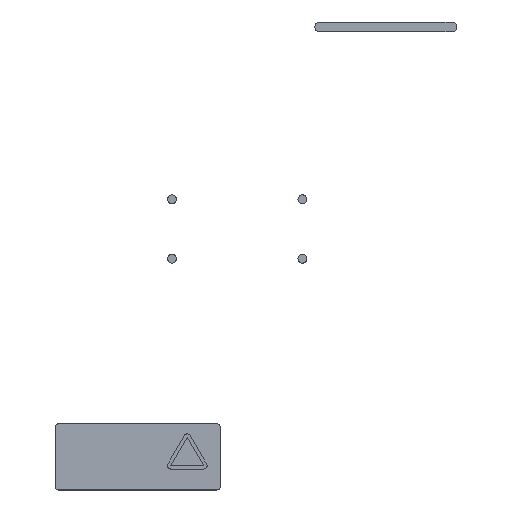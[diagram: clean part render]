
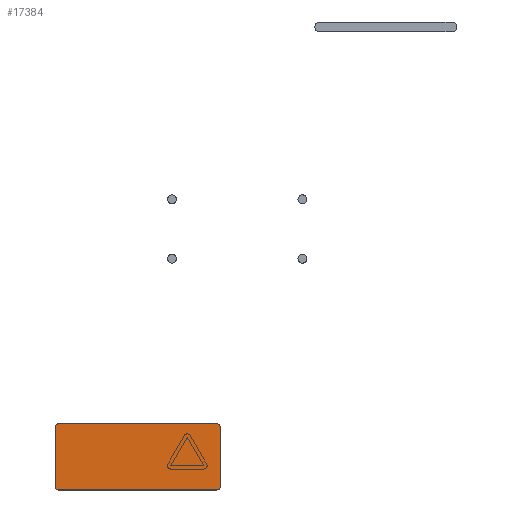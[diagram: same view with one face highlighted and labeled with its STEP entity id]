
A CAD part, top view. The second image highlights one B-rep face of the part: STEP entity #17384.
In plain terms, the highlighted planar face has unit normal (0, 0, 1).
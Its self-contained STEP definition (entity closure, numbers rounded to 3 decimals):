
#3616 = DIRECTION ( 'NONE',  ( 0., 0., -1. ) ) ;
#3928 = DIRECTION ( 'NONE',  ( 1., 0., 0. ) ) ;
#5877 = ORIENTED_EDGE ( 'NONE', *, *, #83253, .F. ) ;
#7384 = EDGE_CURVE ( 'NONE', #38932, #22617, #76555, .T. ) ;
#10746 = DIRECTION ( 'NONE',  ( 0., 0., -1. ) ) ;
#11890 = DIRECTION ( 'NONE',  ( 0., 0., -1. ) ) ;
#14104 = LINE ( 'NONE', #16829, #64383 ) ;
#15736 = CARTESIAN_POINT ( 'NONE',  ( -110.202, 30.401, -2. ) ) ;
#16829 = CARTESIAN_POINT ( 'NONE',  ( -10.202, 66.401, -2. ) ) ;
#17384 = ADVANCED_FACE ( 'NONE', ( #35836 ), #88635, .F. ) ;
#17549 = VERTEX_POINT ( 'NONE', #36237 ) ;
#19077 = LINE ( 'NONE', #73721, #56499 ) ;
#22617 = VERTEX_POINT ( 'NONE', #35478 ) ;
#26072 = DIRECTION ( 'NONE',  ( -1., 0., 0. ) ) ;
#26668 = EDGE_CURVE ( 'NONE', #22617, #41552, #69751, .T. ) ;
#26744 = AXIS2_PLACEMENT_3D ( 'NONE', #87834, #11890, #64495 ) ;
#28254 = CIRCLE ( 'NONE', #30592, 2. ) ;
#28357 = DIRECTION ( 'NONE',  ( -1., 0., 0. ) ) ;
#30592 = AXIS2_PLACEMENT_3D ( 'NONE', #44649, #75198, #75874 ) ;
#32917 = EDGE_CURVE ( 'NONE', #41552, #74249, #14104, .T. ) ;
#33934 = CARTESIAN_POINT ( 'NONE',  ( -12.202, 68.401, -2. ) ) ;
#35478 = CARTESIAN_POINT ( 'NONE',  ( -12.202, 68.401, -2. ) ) ;
#35836 = FACE_OUTER_BOUND ( 'NONE', #56911, .T. ) ;
#36237 = CARTESIAN_POINT ( 'NONE',  ( -12.202, 28.401, -2. ) ) ;
#36706 = CARTESIAN_POINT ( 'NONE',  ( -108.202, 28.401, -2. ) ) ;
#37347 = CARTESIAN_POINT ( 'NONE',  ( -108.202, 68.401, -2. ) ) ;
#38932 = VERTEX_POINT ( 'NONE', #37347 ) ;
#41552 = VERTEX_POINT ( 'NONE', #49110 ) ;
#42124 = ORIENTED_EDGE ( 'NONE', *, *, #90876, .F. ) ;
#43869 = ORIENTED_EDGE ( 'NONE', *, *, #26668, .F. ) ;
#44649 = CARTESIAN_POINT ( 'NONE',  ( -108.202, 30.401, -2. ) ) ;
#47992 = CARTESIAN_POINT ( 'NONE',  ( -12.202, 30.401, -2. ) ) ;
#49110 = CARTESIAN_POINT ( 'NONE',  ( -10.202, 66.401, -2. ) ) ;
#50603 = VERTEX_POINT ( 'NONE', #36706 ) ;
#50654 = VERTEX_POINT ( 'NONE', #60556 ) ;
#52644 = AXIS2_PLACEMENT_3D ( 'NONE', #65658, #73210, #28357 ) ;
#56448 = DIRECTION ( 'NONE',  ( 1., 0., 0. ) ) ;
#56499 = VECTOR ( 'NONE', #73018, 1000. ) ;
#56911 = EDGE_LOOP ( 'NONE', ( #5877, #83724, #43869, #88318, #42124, #57014, #60358, #61083 ) ) ;
#57014 = ORIENTED_EDGE ( 'NONE', *, *, #65814, .F. ) ;
#57395 = EDGE_CURVE ( 'NONE', #17549, #50603, #19077, .T. ) ;
#57909 = EDGE_CURVE ( 'NONE', #50603, #80384, #28254, .T. ) ;
#58358 = DIRECTION ( 'NONE',  ( 0., 1., 0. ) ) ;
#58907 = VECTOR ( 'NONE', #56448, 1000. ) ;
#60358 = ORIENTED_EDGE ( 'NONE', *, *, #57909, .F. ) ;
#60441 = AXIS2_PLACEMENT_3D ( 'NONE', #47992, #10746, #26072 ) ;
#60556 = CARTESIAN_POINT ( 'NONE',  ( -110.202, 66.401, -2. ) ) ;
#60844 = VECTOR ( 'NONE', #58358, 1000. ) ;
#61083 = ORIENTED_EDGE ( 'NONE', *, *, #57395, .F. ) ;
#63315 = CARTESIAN_POINT ( 'NONE',  ( -108.202, 66.401, -2. ) ) ;
#64383 = VECTOR ( 'NONE', #91190, 1000. ) ;
#64495 = DIRECTION ( 'NONE',  ( -1., 0., 0. ) ) ;
#65658 = CARTESIAN_POINT ( 'NONE',  ( -12.202, 30.401, -2. ) ) ;
#65814 = EDGE_CURVE ( 'NONE', #80384, #50654, #70378, .T. ) ;
#69751 = CIRCLE ( 'NONE', #26744, 2. ) ;
#69760 = AXIS2_PLACEMENT_3D ( 'NONE', #63315, #3616, #3928 ) ;
#70378 = LINE ( 'NONE', #73113, #60844 ) ;
#73018 = DIRECTION ( 'NONE',  ( -1., 0., 0. ) ) ;
#73113 = CARTESIAN_POINT ( 'NONE',  ( -110.202, 66.401, -2. ) ) ;
#73210 = DIRECTION ( 'NONE',  ( 0., 0., -1. ) ) ;
#73721 = CARTESIAN_POINT ( 'NONE',  ( -12.202, 28.401, -2. ) ) ;
#74249 = VERTEX_POINT ( 'NONE', #96432 ) ;
#75198 = DIRECTION ( 'NONE',  ( 0., 0., -1. ) ) ;
#75874 = DIRECTION ( 'NONE',  ( -1., 0., 0. ) ) ;
#76555 = LINE ( 'NONE', #33934, #58907 ) ;
#80384 = VERTEX_POINT ( 'NONE', #15736 ) ;
#83253 = EDGE_CURVE ( 'NONE', #74249, #17549, #83998, .T. ) ;
#83724 = ORIENTED_EDGE ( 'NONE', *, *, #32917, .F. ) ;
#83998 = CIRCLE ( 'NONE', #60441, 2. ) ;
#85206 = CIRCLE ( 'NONE', #69760, 2. ) ;
#87834 = CARTESIAN_POINT ( 'NONE',  ( -12.202, 66.401, -2. ) ) ;
#88318 = ORIENTED_EDGE ( 'NONE', *, *, #7384, .F. ) ;
#88635 = PLANE ( 'NONE',  #52644 ) ;
#90876 = EDGE_CURVE ( 'NONE', #50654, #38932, #85206, .T. ) ;
#91190 = DIRECTION ( 'NONE',  ( 0., -1., 0. ) ) ;
#96432 = CARTESIAN_POINT ( 'NONE',  ( -10.202, 30.401, -2. ) ) ;
